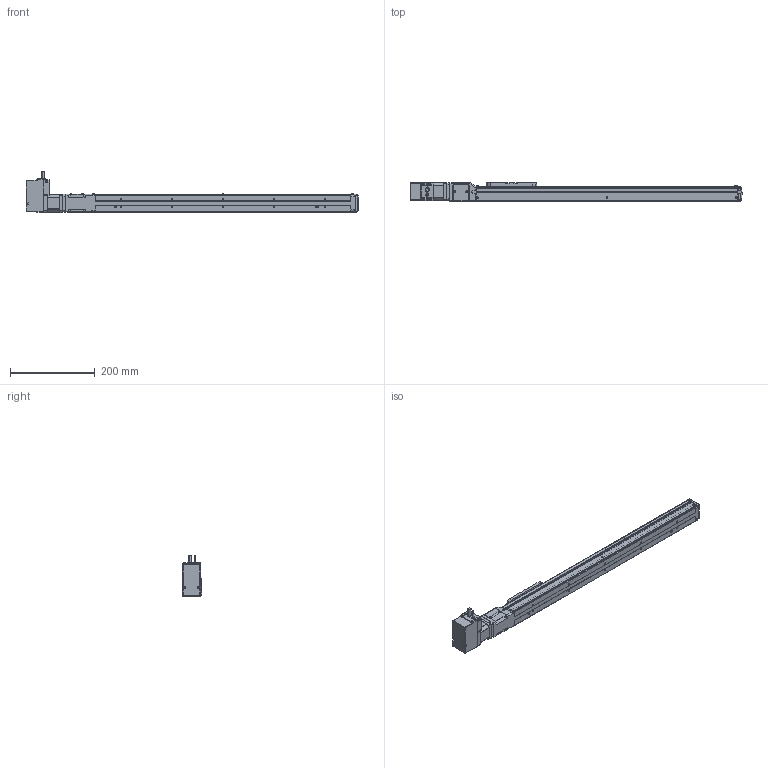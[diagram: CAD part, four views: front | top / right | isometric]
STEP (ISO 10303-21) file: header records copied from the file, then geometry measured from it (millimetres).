
FILE_DESCRIPTION(('FreeCAD Model'),'2;1');
FILE_NAME('Open CASCADE Shape Model','2023-08-01T17:16:37',('Author'),( ''),'Open CASCADE STEP processor 7.5','FreeCAD','Unknown');
FILE_SCHEMA(('AUTOMOTIVE_DESIGN { 1 0 10303 214 1 1 1 1 }'));
Length unit declared in the file: millimetre
Products named in the file (20): SCKSF4_020_450_S; Shapes; Shapes001; Shapes002; Shapes003; Shapes004; Shapes005; Shapes006; Shapes007; Shapes008; Shapes009; Shapes010; Shapes011; Shapes012; Shapes013; KSF4-10-0450-0-AR(0); KSF4---(Cover); KSF4-AR---(Motor bracket); KSF4-10-0450---(slider); KSF4-10-0450-0-AR-(04500ARNo0)---(body)
Assembly tree (19 placements, depth 3):
  SCKSF4_020_450_S
    Shapes
    Shapes001
    Shapes002
    Shapes003
    Shapes004
    Shapes005
    Shapes006
    Shapes007
    Shapes008
    Shapes009
    Shapes010
    Shapes011
    Shapes012
    Shapes013
    KSF4-10-0450-0-AR(0)
      KSF4---(Cover)
      KSF4-AR---(Motor bracket)
      KSF4-10-0450---(slider)
      KSF4-10-0450-0-AR-(04500ARNo0)---(body)
Bounding box: 782 x 46 x 98.19 mm (x, y, z)
Volume: 1265047.4 mm3; surface area: 243233.5 mm2
Topology: 18 solids, 18 shells, 1253 faces, 3248 edges, 2118 vertices
Faces by surface type: plane 683, cylinder 424, cone 66, torus 51, bspline 19, revolution 6, sphere 4
Full cylindrical faces by diameter (mm): 2.113 x8, 2.459 x3, 3 x6, 3.242 x4, 3.4 x14, 4 x3, 4.5 x2, 5.5 x8, 6 x1, 6.5 x16, 8 x1, 12 x1, 22 x1, 28 x1, 30 x2
Entity records: 92166 total; most frequent: CARTESIAN_POINT 26636, DIRECTION 12315, LINE 7295, VECTOR 7295, ORIENTED_EDGE 6460, PCURVE 6460, DEFINITIONAL_REPRESENTATION 6460, EDGE_CURVE 3230
